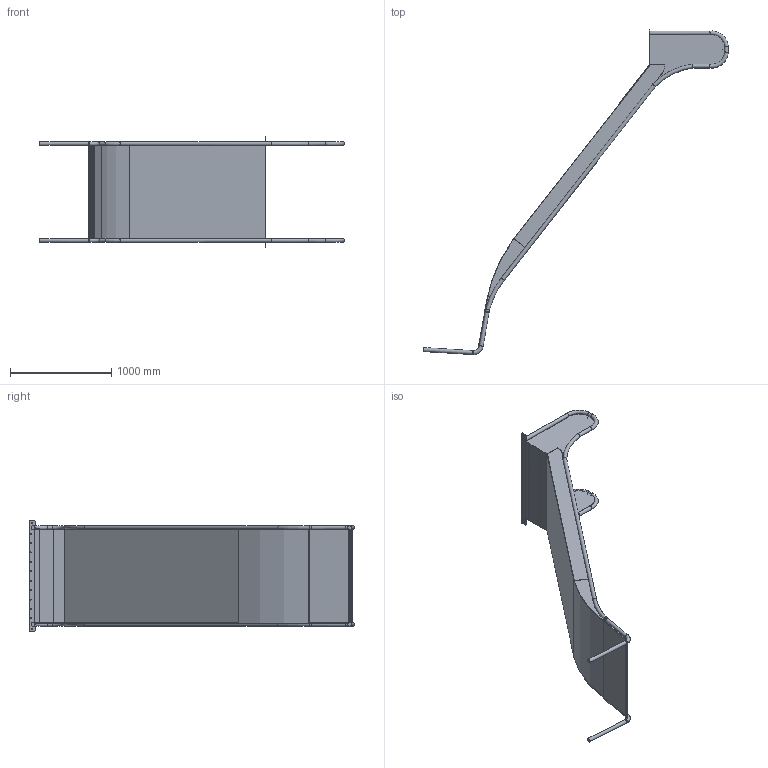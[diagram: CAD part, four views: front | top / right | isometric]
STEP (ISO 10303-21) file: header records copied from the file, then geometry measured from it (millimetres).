
FILE_DESCRIPTION(/* description */ (''),/* implementation_level */ '2;1');
FILE_NAME(/* name */ 'F:\_Inventor\- Tegningsmateriale - kunder\PlayNsafe\PlayNsafe Rutchebaner\Ny mappe\120-1900-1000.stp',/* time_stamp */ '2026-09-09T09:34:56+02:00',/* author */ ('jm'),/* organization */ (''),/* preprocessor_version */ 'ST-DEVELOPER v18.1',/* originating_system */ 'Autodesk Inventor 2022',/* authorisation */ '');
FILE_SCHEMA (('AUTOMOTIVE_DESIGN { 1 0 10303 214 3 1 1 }'));
Length unit declared in the file: millimetre
Products named in the file (10): 120-1900-1000; 120-1000-1000 udløb; 120-2400-1000 bue; 120-2400-1000 udløb; Lb2200 venstre; 120-1900-1000 indløb; 120-1900-500 rør; 120-2400-1000 forlængerplade til lang siddeområ
de; 120-2400-1000 monteringsflange; 120-2400-1000 øre
Assembly tree (12 placements, depth 3):
  120-1900-1000
    120-1000-1000 udløb
      120-2400-1000 bue
      120-2400-1000 udløb
      Lb2200 venstre  x2
    120-1900-500 rør  x2
    120-1900-1000 indløb
    120-2400-1000 øre  x2
    120-2400-1000 forlængerplade til lang siddeområ
de
    120-2400-1000 monteringsflange
Bounding box: 3008.75 x 3210.33 x 1091.5 mm (x, y, z)
Volume: 22291273.6 mm3; surface area: 10973934.6 mm2
Topology: 11 solids, 11 shells, 277 faces, 673 edges, 422 vertices
Faces by surface type: plane 145, cylinder 105, torus 10, cone 10, bspline 7
Full cylindrical faces by diameter (mm): 2 x2, 6.5 x10, 11 x1, 13 x1, 38 x20
Entity records: 8563 total; most frequent: CARTESIAN_POINT 2663, DIRECTION 1210, ORIENTED_EDGE 1118, EDGE_CURVE 559, AXIS2_PLACEMENT_3D 428, LINE 354, VECTOR 354, VERTEX_POINT 345
